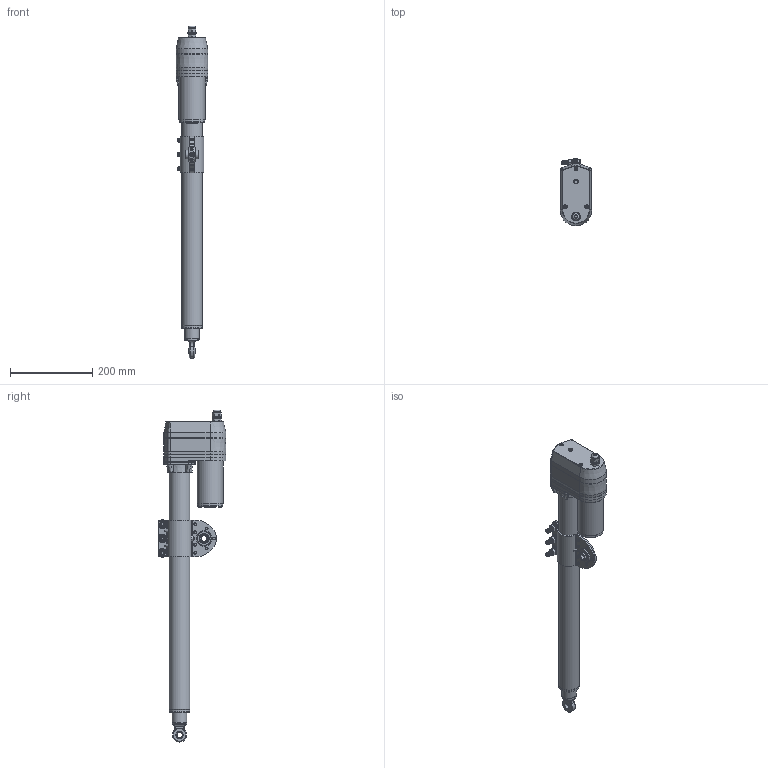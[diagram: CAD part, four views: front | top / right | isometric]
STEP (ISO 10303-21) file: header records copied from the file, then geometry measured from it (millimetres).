
FILE_DESCRIPTION (( 'STEP AP203' ), '1' );
FILE_NAME ('ID10S-A-450.STEP', '2014-06-09T01:29:06', ( '' ), ( '' ), 'SwSTEP 2.0', 'SolidWorks 2013', '' );
FILE_SCHEMA (( 'CONFIG_CONTROL_DESIGN' ));
Length unit declared in the file: millimetre
Products named in the file (4): ID10S-A-450; ID10S-A-450-1; ID10S-A-450-2; ID10S-握把13.0
Assembly tree (3 placements, depth 2):
  ID10S-A-450
    ID10S-A-450-1
    ID10S-A-450-2
    ID10S-握把13.0
Bounding box: 77.1 x 165.28 x 809.2 mm (x, y, z)
Volume: 2808943 mm3; surface area: 389080.2 mm2
Topology: 3 solids, 3 shells, 802 faces, 2057 edges, 1333 vertices
Faces by surface type: plane 330, cylinder 212, bspline 119, torus 71, cone 55, sphere 15
Full cylindrical faces by diameter (mm): 7 x18, 8 x1, 8.5 x5, 9 x1, 9.85 x3, 9.9 x1, 10.2 x1, 10.5 x6, 11.8 x7, 13 x2, 15.7 x1, 16 x1, 17.7 x1, 21.4 x1, 21.5 x5, 28 x1, 35.2 x3, 50.8 x2, 62.85 x1, 63.3 x1, 63.5 x1
Entity records: 44095 total; most frequent: CARTESIAN_POINT 26419, ORIENTED_EDGE 3724, DIRECTION 3241, EDGE_CURVE 1862, AXIS2_PLACEMENT_3D 1297, VERTEX_POINT 1261, EDGE_LOOP 1021, FACE_OUTER_BOUND 904
